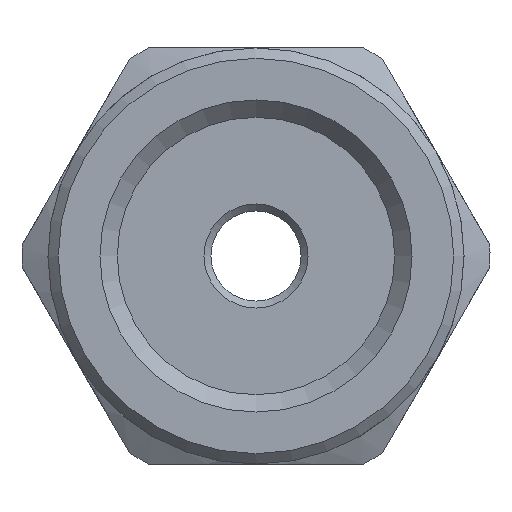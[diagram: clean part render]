
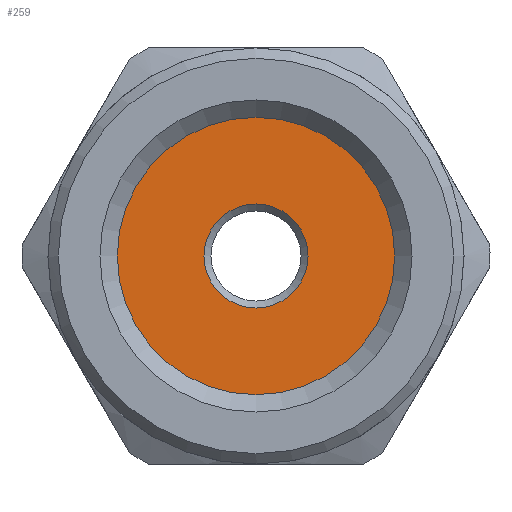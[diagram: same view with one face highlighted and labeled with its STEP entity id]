
A CAD part, left-side view. The second image highlights one B-rep face of the part: STEP entity #259.
In plain terms, the highlighted planar face has unit normal (-1, 0, 0).
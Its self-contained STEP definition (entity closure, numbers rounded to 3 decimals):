
#259=ADVANCED_FACE('',(#637,#638),#639,.F.);
#637=FACE_BOUND('',#1117,.T.);
#638=FACE_OUTER_BOUND('',#1118,.T.);
#639=PLANE('',#1119);
#1117=EDGE_LOOP('',(#2115));
#1118=EDGE_LOOP('',(#2116));
#1119=AXIS2_PLACEMENT_3D('',#2117,#2118,#2119);
#2115=ORIENTED_EDGE('',*,*,#2654,.T.);
#2116=ORIENTED_EDGE('',*,*,#2632,.F.);
#2117=CARTESIAN_POINT('',(0.9,0.,0.));
#2118=DIRECTION('',(1.0,0.0,0.0));
#2119=DIRECTION('',(0.0,1.0,0.0));
#2632=EDGE_CURVE('',#2847,#2847,#2848,.T.);
#2654=EDGE_CURVE('',#2874,#2874,#2875,.T.);
#2847=VERTEX_POINT('',#3204);
#2848=CIRCLE('',#3205,4.0);
#2874=VERTEX_POINT('',#3231);
#2875=CIRCLE('',#3232,1.5);
#3204=CARTESIAN_POINT('',(0.9,-2.,-3.464));
#3205=AXIS2_PLACEMENT_3D('',#3354,#3355,#3356);
#3231=CARTESIAN_POINT('',(0.9,0.,-1.5));
#3232=AXIS2_PLACEMENT_3D('',#3375,#3376,#3377);
#3354=CARTESIAN_POINT('',(0.9,0.,0.));
#3355=DIRECTION('',(1.0,0.0,0.0));
#3356=DIRECTION('',(0.0,-0.5,-0.866));
#3375=CARTESIAN_POINT('',(0.9,0.,0.));
#3376=DIRECTION('',(1.0,0.0,0.0));
#3377=DIRECTION('',(0.0,0.0,-1.0));
